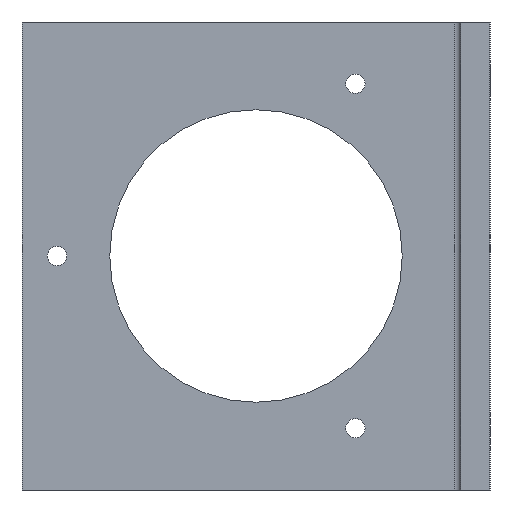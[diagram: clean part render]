
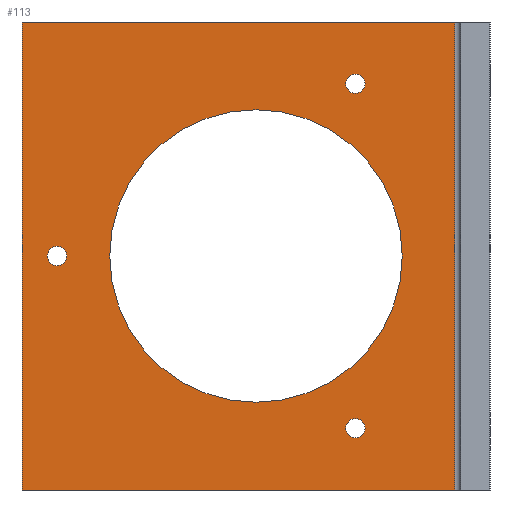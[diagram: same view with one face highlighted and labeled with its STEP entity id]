
A CAD part, left-side view. The second image highlights one B-rep face of the part: STEP entity #113.
In plain terms, the highlighted planar face has unit normal (-1, 0, 0).
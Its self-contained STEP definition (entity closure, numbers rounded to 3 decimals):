
#109 = ORIENTED_EDGE ( 'NONE', *, *, #146, .F. ) ;
#110 = EDGE_CURVE ( 'NONE', #529, #529, #368, .T. ) ;
#112 = EDGE_CURVE ( 'NONE', #132, #155, #377, .T. ) ;
#113 = ADVANCED_FACE ( 'NONE', ( #362, #365, #409, #390, #364 ), #410, .F. ) ;
#115 = ORIENTED_EDGE ( 'NONE', *, *, #110, .F. ) ;
#120 = EDGE_LOOP ( 'NONE', ( #140 ) ) ;
#122 = EDGE_CURVE ( 'NONE', #154, #131, #387, .T. ) ;
#123 = EDGE_CURVE ( 'NONE', #503, #503, #404, .T. ) ;
#125 = EDGE_LOOP ( 'NONE', ( #139 ) ) ;
#128 = EDGE_CURVE ( 'NONE', #521, #521, #384, .T. ) ;
#131 = VERTEX_POINT ( 'NONE', #519 ) ;
#132 = VERTEX_POINT ( 'NONE', #451 ) ;
#133 = ORIENTED_EDGE ( 'NONE', *, *, #112, .T. ) ;
#134 = EDGE_LOOP ( 'NONE', ( #136 ) ) ;
#136 = ORIENTED_EDGE ( 'NONE', *, *, #123, .F. ) ;
#137 = EDGE_LOOP ( 'NONE', ( #141, #163, #109, #133 ) ) ;
#139 = ORIENTED_EDGE ( 'NONE', *, *, #128, .F. ) ;
#140 = ORIENTED_EDGE ( 'NONE', *, *, #144, .F. ) ;
#141 = ORIENTED_EDGE ( 'NONE', *, *, #143, .T. ) ;
#142 = EDGE_LOOP ( 'NONE', ( #115 ) ) ;
#143 = EDGE_CURVE ( 'NONE', #155, #154, #493, .T. ) ;
#144 = EDGE_CURVE ( 'NONE', #523, #523, #454, .T. ) ;
#146 = EDGE_CURVE ( 'NONE', #132, #131, #506, .T. ) ;
#154 = VERTEX_POINT ( 'NONE', #445 ) ;
#155 = VERTEX_POINT ( 'NONE', #442 ) ;
#163 = ORIENTED_EDGE ( 'NONE', *, *, #122, .T. ) ;
#174 = DIRECTION ( 'NONE',  ( -1., 0., 0. ) ) ;
#273 = DIRECTION ( 'NONE',  ( 0., 0., 1. ) ) ;
#362 = FACE_BOUND ( 'NONE', #120, .T. ) ;
#364 = FACE_BOUND ( 'NONE', #134, .T. ) ;
#365 = FACE_BOUND ( 'NONE', #125, .T. ) ;
#366 = DIRECTION ( 'NONE',  ( 0., -1., 0. ) ) ;
#367 = AXIS2_PLACEMENT_3D ( 'NONE', #375, #394, #366 ) ;
#368 = CIRCLE ( 'NONE', #367, 25. ) ;
#375 = CARTESIAN_POINT ( 'NONE',  ( 0., 35., 40. ) ) ;
#376 = CARTESIAN_POINT ( 'NONE',  ( 0., 75., 80. ) ) ;
#377 = LINE ( 'NONE', #376, #412 ) ;
#378 = DIRECTION ( 'NONE',  ( 1., 0., 0. ) ) ;
#383 = AXIS2_PLACEMENT_3D ( 'NONE', #407, #174, #273 ) ;
#384 = CIRCLE ( 'NONE', #383, 1.65 ) ;
#385 = DIRECTION ( 'NONE',  ( 0., 0., 1. ) ) ;
#386 = CARTESIAN_POINT ( 'NONE',  ( 0., 18., 69.445 ) ) ;
#387 = LINE ( 'NONE', #417, #416 ) ;
#388 = AXIS2_PLACEMENT_3D ( 'NONE', #386, #408, #429 ) ;
#390 = FACE_OUTER_BOUND ( 'NONE', #137, .T. ) ;
#394 = DIRECTION ( 'NONE',  ( -1., 0., 0. ) ) ;
#395 = AXIS2_PLACEMENT_3D ( 'NONE', #406, #378, #405 ) ;
#404 = CIRCLE ( 'NONE', #388, 1.65 ) ;
#405 = DIRECTION ( 'NONE',  ( 0., 1., 0. ) ) ;
#406 = CARTESIAN_POINT ( 'NONE',  ( 0., 75., 80. ) ) ;
#407 = CARTESIAN_POINT ( 'NONE',  ( 0., 69., 40. ) ) ;
#408 = DIRECTION ( 'NONE',  ( -1., 0., 0. ) ) ;
#409 = FACE_BOUND ( 'NONE', #142, .T. ) ;
#410 = PLANE ( 'NONE',  #395 ) ;
#411 = DIRECTION ( 'NONE',  ( 0., 0., -1. ) ) ;
#412 = VECTOR ( 'NONE', #411, 1000. ) ;
#416 = VECTOR ( 'NONE', #385, 1000. ) ;
#417 = CARTESIAN_POINT ( 'NONE',  ( 0., 1., 80. ) ) ;
#429 = DIRECTION ( 'NONE',  ( 0., 0., 1. ) ) ;
#440 = AXIS2_PLACEMENT_3D ( 'NONE', #490, #473, #536 ) ;
#442 = CARTESIAN_POINT ( 'NONE',  ( 0., 75., 0. ) ) ;
#445 = CARTESIAN_POINT ( 'NONE',  ( 0., 1., 0. ) ) ;
#447 = DIRECTION ( 'NONE',  ( 0., -1., 0. ) ) ;
#451 = CARTESIAN_POINT ( 'NONE',  ( 0., 75., 80. ) ) ;
#454 = CIRCLE ( 'NONE', #440, 1.65 ) ;
#473 = DIRECTION ( 'NONE',  ( -1., 0., 0. ) ) ;
#487 = DIRECTION ( 'NONE',  ( 0., -1., 0. ) ) ;
#490 = CARTESIAN_POINT ( 'NONE',  ( 0., 18., 10.555 ) ) ;
#493 = LINE ( 'NONE', #539, #533 ) ;
#500 = CARTESIAN_POINT ( 'NONE',  ( 0., 69., 41.65 ) ) ;
#503 = VERTEX_POINT ( 'NONE', #524 ) ;
#504 = VECTOR ( 'NONE', #447, 1000. ) ;
#505 = CARTESIAN_POINT ( 'NONE',  ( 0., 75., 80. ) ) ;
#506 = LINE ( 'NONE', #505, #504 ) ;
#519 = CARTESIAN_POINT ( 'NONE',  ( 0., 1., 80. ) ) ;
#521 = VERTEX_POINT ( 'NONE', #500 ) ;
#522 = CARTESIAN_POINT ( 'NONE',  ( 0., 18., 12.205 ) ) ;
#523 = VERTEX_POINT ( 'NONE', #522 ) ;
#524 = CARTESIAN_POINT ( 'NONE',  ( 0., 18., 71.095 ) ) ;
#528 = CARTESIAN_POINT ( 'NONE',  ( 0., 10., 40. ) ) ;
#529 = VERTEX_POINT ( 'NONE', #528 ) ;
#533 = VECTOR ( 'NONE', #487, 1000. ) ;
#536 = DIRECTION ( 'NONE',  ( 0., 0., 1. ) ) ;
#539 = CARTESIAN_POINT ( 'NONE',  ( 0., 75., 0. ) ) ;
